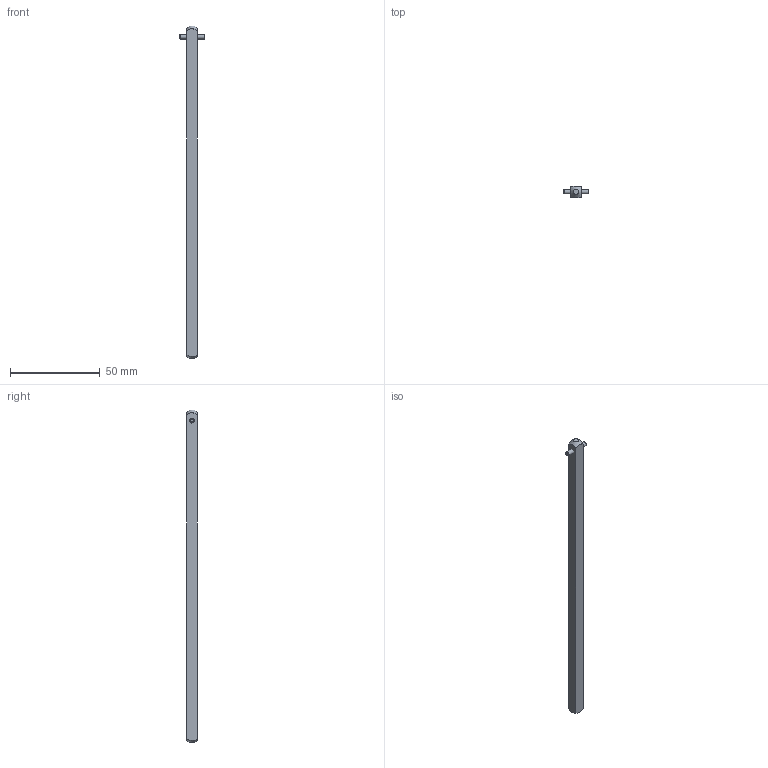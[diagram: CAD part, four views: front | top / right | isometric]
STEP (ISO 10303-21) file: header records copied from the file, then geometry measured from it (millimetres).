
FILE_DESCRIPTION(/* description */ (''),/* implementation_level */ '2;1');
FILE_NAME(/* name */ '4009782.stp',/* time_stamp */ '2017-11-06T08:29:32+01:00',/* author */ (''),/* organization */ (''),/* preprocessor_version */ 'ST-DEVELOPER v16',/* originating_system */ 'SIEMENS PLM Software NX 11.0',/* authorisation */ '');
FILE_SCHEMA (('AUTOMOTIVE_DESIGN { 1 0 10303 214 3 1 1 1 }'));
Length unit declared in the file: millimetre
Products named in the file (1): 4009782_LINKEDEXT_jt
Bounding box: 14 x 6 x 185 mm (x, y, z)
Surface area: 4566.4 mm2 (no closed solid volume)
Topology: 0 solids, 2 shells, 12 faces, 31 edges, 25 vertices
Faces by surface type: plane 8, cone 3, cylinder 1
Entity records: 445 total; most frequent: CARTESIAN_POINT 108, DIRECTION 57, ORIENTED_EDGE 44, EDGE_CURVE 27, AXIS2_PLACEMENT_3D 23, VERTEX_POINT 20, EDGE_LOOP 14, ADVANCED_FACE 12
